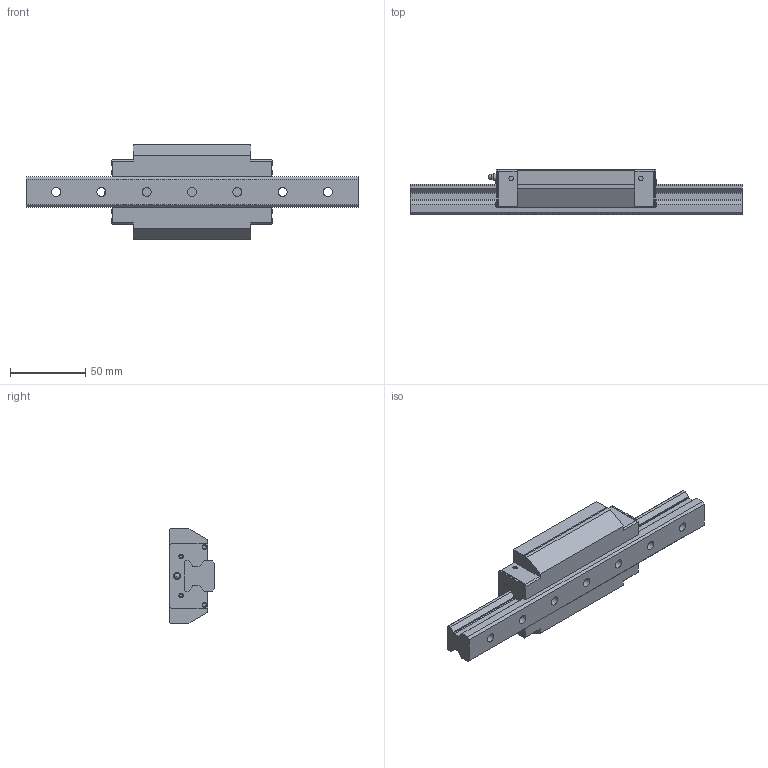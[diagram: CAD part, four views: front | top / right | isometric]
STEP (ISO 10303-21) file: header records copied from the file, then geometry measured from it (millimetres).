
FILE_DESCRIPTION(/* description */ ('STEP AP203'),/* implementation_level */ '2;1');
FILE_NAME(/* name */ 'SRG20XLA1SS-220LP_G20_0_PB107_56-9_0_0_0_1',/* time_stamp */ '2024-05-23T09:35:58+02:00',/* author */ ('License CC BY-ND 4.0'),/* organization */ ('CADENAS'),/* preprocessor_version */ 'ST-DEVELOPER v19.3',/* originating_system */ 'PARTsolutions',/* authorisation */ ' ');
FILE_SCHEMA (('CONFIG_CONTROL_DESIGN','AP242_MANAGED_MODEL_BASED_3D_ENGINEERING_MIM_LF { 1 0 10303 442 3 1 4 }'));
Length unit declared in the file: millimetre
Products named in the file (4): SRG20XLA1SS-220LP_G20_0_PB107_56-9_0_0_0_1; SRG20XLA22020 Track; SRG20XLASSPB1071 Slide15-25; SRG-PB107_grease_nipple_joint
Assembly tree (3 placements, depth 2):
  SRG20XLA1SS-220LP_G20_0_PB107_56-9_0_0_0_1
    SRG20XLA22020 Track
    SRG20XLASSPB1071 Slide15-25
    SRG-PB107_grease_nipple_joint
Bounding box: 220 x 30 x 63 mm (x, y, z)
Volume: 185473.5 mm3; surface area: 47054.3 mm2
Topology: 3 solids, 3 shells, 248 faces, 607 edges, 397 vertices
Faces by surface type: plane 188, cylinder 39, cone 12, torus 8, sphere 1
Full cylindrical faces by diameter (mm): 2.9 x4, 3 x3, 3.5 x1, 4.5 x1, 4.917 x6, 6 x7, 9.2 x2, 9.5 x7
Entity records: 7039 total; most frequent: CARTESIAN_POINT 1194, DIRECTION 1154, ORIENTED_EDGE 1096, EDGE_CURVE 548, LINE 446, VECTOR 446, VERTEX_POINT 394, FACE_BOUND 354
